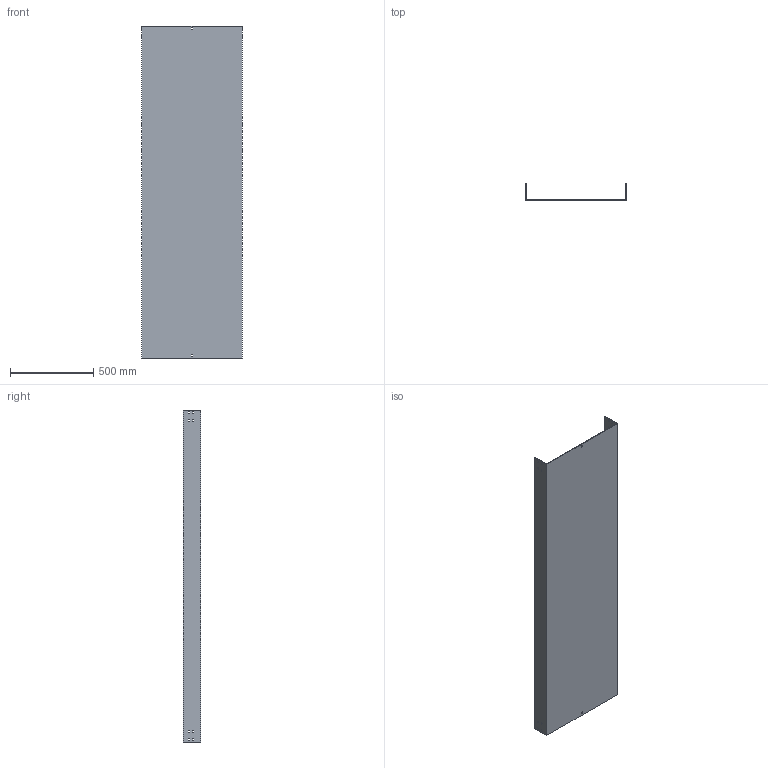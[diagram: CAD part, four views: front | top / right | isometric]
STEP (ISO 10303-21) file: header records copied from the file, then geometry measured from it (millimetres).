
FILE_DESCRIPTION (( 'STEP AP214' ), '1' );
FILE_NAME ('03F2D600.step', '2025-02-21T13:16:07', ( '' ), ( '' ), 'SwSTEP 2.0', 'SolidWorks 2023', '' );
FILE_SCHEMA (( 'AUTOMOTIVE_DESIGN' ));
Length unit declared in the file: millimetre
Products named in the file (1): 03F2D600
Bounding box: 604 x 104 x 2000 mm (x, y, z)
Volume: 5630670.5 mm3; surface area: 3239282 mm2
Topology: 1 solids, 1 shells, 82 faces, 240 edges, 160 vertices
Faces by surface type: plane 82
Entity records: 2759 total; most frequent: CARTESIAN_POINT 483, ORIENTED_EDGE 480, DIRECTION 406, VECTOR 240, EDGE_CURVE 240, LINE 240, VERTEX_POINT 160, EDGE_LOOP 118
